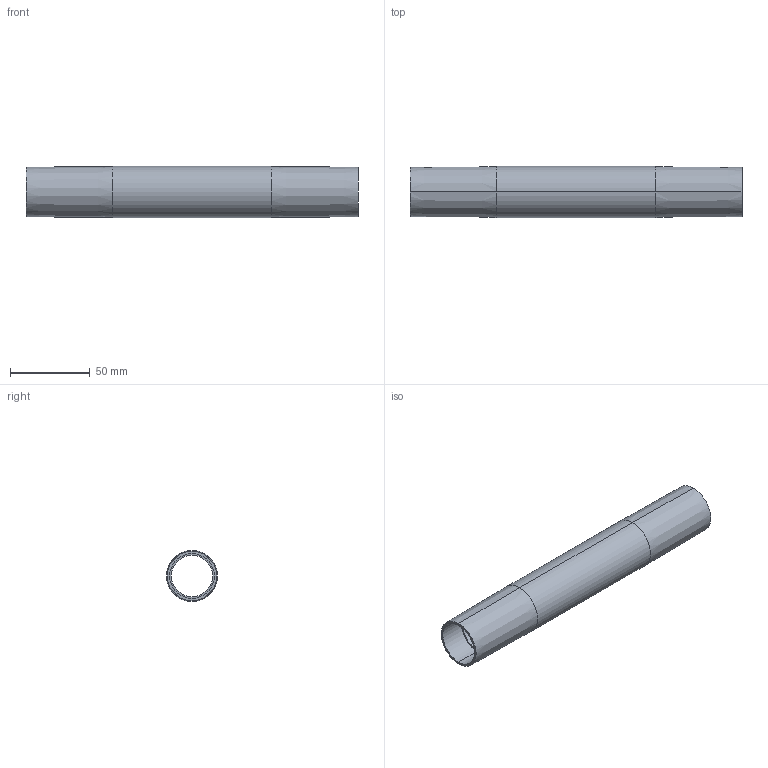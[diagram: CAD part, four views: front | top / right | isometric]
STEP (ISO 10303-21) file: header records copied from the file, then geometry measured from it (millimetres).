
FILE_DESCRIPTION (( 'STEP AP203' ), '1' );
FILE_NAME ('084.801.035.STEP', '2013-02-01T07:21:02', ( 'Alusic' ), ( 'Alusic' ), 'SwSTEP 2.0', 'SolidWorks 2011', '' );
FILE_SCHEMA (( 'CONFIG_CONTROL_DESIGN' ));
Length unit declared in the file: millimetre
Products named in the file (1): 084.801.035
Bounding box: 208 x 32 x 32 mm (x, y, z)
Volume: 51365 mm3; surface area: 38386 mm2
Topology: 1 solids, 1 shells, 16 faces, 32 edges, 20 vertices
Faces by surface type: cylinder 8, cone 4, plane 4
Entity records: 505 total; most frequent: DIRECTION 86, CARTESIAN_POINT 69, ORIENTED_EDGE 64, AXIS2_PLACEMENT_3D 37, EDGE_CURVE 32, CIRCLE 20, EDGE_LOOP 20, VERTEX_POINT 20
